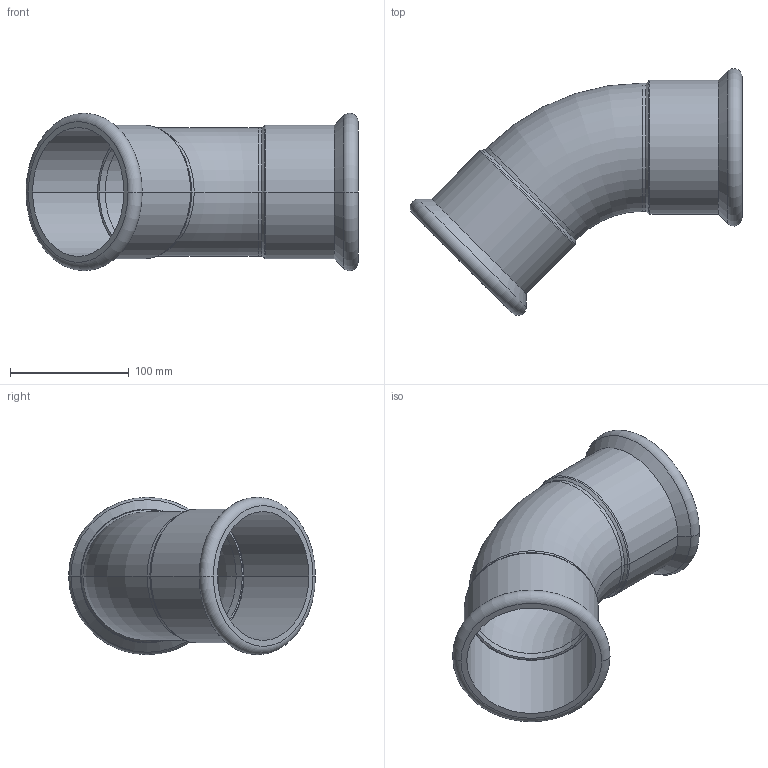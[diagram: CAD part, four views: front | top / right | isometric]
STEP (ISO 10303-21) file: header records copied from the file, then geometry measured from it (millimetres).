
FILE_DESCRIPTION(('CoCreate Modeling STEP Export'),'2;1');
FILE_NAME('C1413 108x108.stp','2014-11-11T16:53:07',(''),(''),'CoCreate Modeling STEP processor for AP214 (Solid Model)','CoCreate Modeling 17.00A 17-Jun-2010 (C) Parametric Technology GmbH','');
FILE_SCHEMA(('AUTOMOTIVE_DESIGN { 1 0 10303 214 1 1 1 1 }'));
Length unit declared in the file: millimetre
Products named in the file (2): C1413_108x108
Assembly tree (1 placements, depth 2):
  C1413_108x108
    C1413_108x108
Bounding box: 279.55 x 207.84 x 132.58 mm (x, y, z)
Volume: 292297.4 mm3; surface area: 198807.4 mm2
Topology: 1 solids, 1 shells, 46 faces, 95 edges, 55 vertices
Faces by surface type: cylinder 20, torus 12, cone 8, plane 6
Entity records: 1040 total; most frequent: ORIENTED_EDGE 190, DIRECTION 164, CARTESIAN_POINT 151, EDGE_CURVE 95, AXIS2_PLACEMENT_3D 68, VERTEX_POINT 55, EDGE_LOOP 52, FACE_OUTER_BOUND 46
